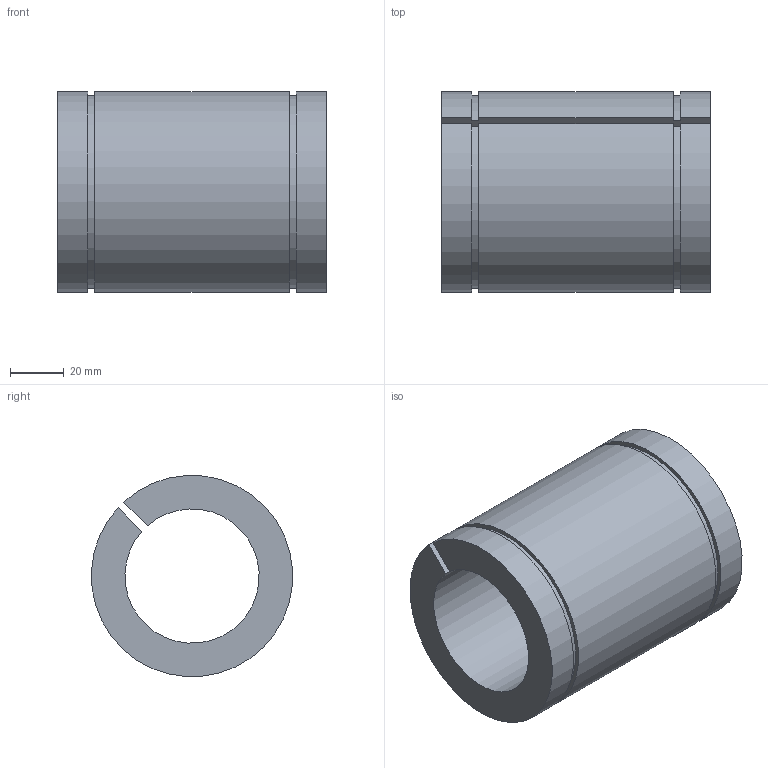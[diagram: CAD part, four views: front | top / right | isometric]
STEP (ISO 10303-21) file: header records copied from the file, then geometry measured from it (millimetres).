
FILE_DESCRIPTION( ( 'STEP AP203' ), '1' );
FILE_NAME( 'p:/temp/worker_91/temp/exporttempdir_4772_919_Awill/format_0/LME50UU-AJ.stp', '2020-04-29T03:24:22', ( 'License CC BY-ND 4.0' ), ( 'CADENAS' ), ' ', 'PARTsolutions', ' ' );
FILE_SCHEMA( ( 'CONFIG_CONTROL_DESIGN' ) );
Length unit declared in the file: millimetre
Products named in the file (1): _LME50UU-AJ
Bounding box: 100 x 74.83 x 74.83 mm (x, y, z)
Volume: 239873.6 mm3; surface area: 47307.9 mm2
Topology: 1 solids, 1 shells, 14 faces, 36 edges, 24 vertices
Faces by surface type: plane 8, cylinder 6
Entity records: 476 total; most frequent: DIRECTION 78, CARTESIAN_POINT 75, ORIENTED_EDGE 72, EDGE_CURVE 36, AXIS2_PLACEMENT_3D 27, VERTEX_POINT 24, LINE 24, VECTOR 24
